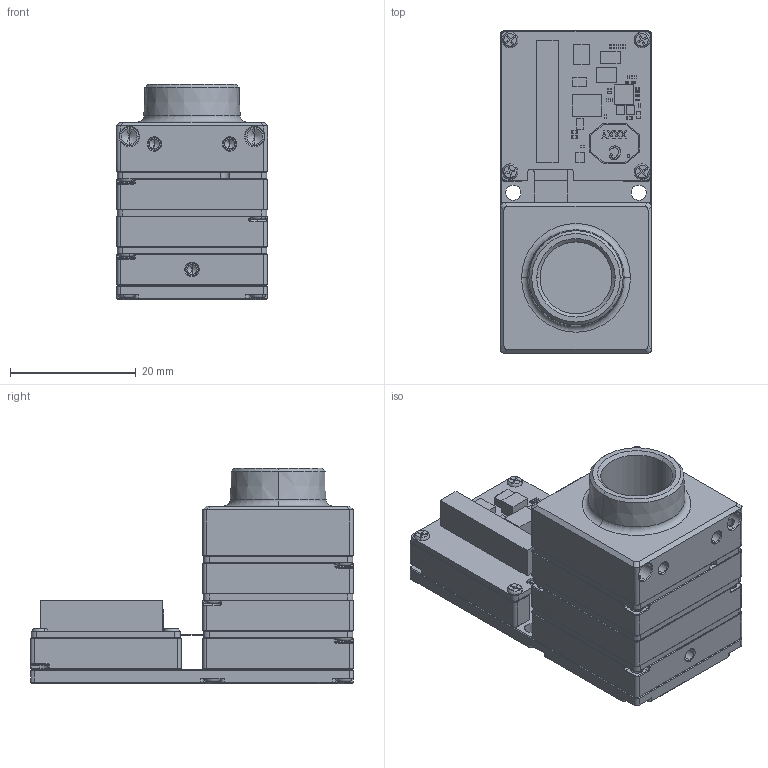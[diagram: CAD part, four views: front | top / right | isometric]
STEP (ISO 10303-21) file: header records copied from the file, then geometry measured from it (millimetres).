
FILE_DESCRIPTION (( 'STEP AP203' ), '1' );
FILE_NAME ('434-018-B_FFC_180.STEP', '2025-04-21T19:23:06', ( '' ), ( '' ), 'SwSTEP 2.0', 'SolidWorks 2021', '' );
FILE_SCHEMA (( 'CONFIG_CONTROL_DESIGN' ));
Products named in the file (1): 434-018-B_FFC_180
Bounding box: 24.13 x 51.45 x 34.3 mm (x, y, z)
Volume: 11008.3 mm3; surface area: 18485.9 mm2
Topology: 68 solids, 68 shells, 4871 faces, 12348 edges, 7462 vertices
Faces by surface type: plane 2601, cylinder 1302, bspline 362, cone 358, torus 162, sphere 86
Entity records: 150009 total; most frequent: CARTESIAN_POINT 35136, ORIENTED_EDGE 24208, DIRECTION 23364, EDGE_CURVE 12104, VECTOR 8244, LINE 8244, AXIS2_PLACEMENT_3D 7560, VERTEX_POINT 7456
